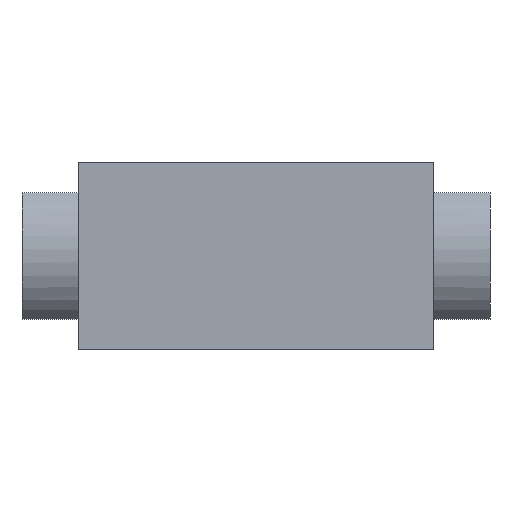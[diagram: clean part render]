
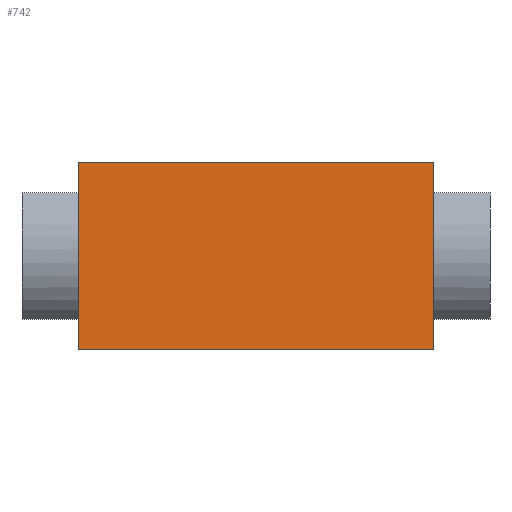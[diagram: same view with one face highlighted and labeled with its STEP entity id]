
A CAD part, front view. The second image highlights one B-rep face of the part: STEP entity #742.
In plain terms, the highlighted planar face has unit normal (0, -1, 0).
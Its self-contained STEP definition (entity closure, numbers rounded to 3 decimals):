
#30 = ORIENTED_EDGE ( 'NONE', *, *, #756, .T. ) ;
#67 = DIRECTION ( 'NONE',  ( 1., 0., 0. ) ) ;
#97 = CARTESIAN_POINT ( 'NONE',  ( -19., -22.5, 10. ) ) ;
#111 = DIRECTION ( 'NONE',  ( 0., 0., -1. ) ) ;
#207 = VERTEX_POINT ( 'NONE', #967 ) ;
#266 = DIRECTION ( 'NONE',  ( 0., 0., -1. ) ) ;
#303 = CARTESIAN_POINT ( 'NONE',  ( -19., -22.5, 10. ) ) ;
#398 = CARTESIAN_POINT ( 'NONE',  ( -19., -22.5, -10. ) ) ;
#459 = DIRECTION ( 'NONE',  ( 0., 1., 0. ) ) ;
#519 = CARTESIAN_POINT ( 'NONE',  ( 19., -22.5, 10. ) ) ;
#553 = VECTOR ( 'NONE', #266, 1000. ) ;
#638 = FACE_OUTER_BOUND ( 'NONE', #851, .T. ) ;
#742 = ADVANCED_FACE ( 'NONE', ( #638 ), #1650, .F. ) ;
#756 = EDGE_CURVE ( 'NONE', #207, #1362, #1083, .T. ) ;
#851 = EDGE_LOOP ( 'NONE', ( #1608, #1989, #1483, #30 ) ) ;
#959 = VERTEX_POINT ( 'NONE', #1562 ) ;
#967 = CARTESIAN_POINT ( 'NONE',  ( -19., -22.5, 10. ) ) ;
#1063 = VECTOR ( 'NONE', #111, 1000. ) ;
#1083 = LINE ( 'NONE', #303, #553 ) ;
#1105 = EDGE_CURVE ( 'NONE', #1362, #959, #1172, .T. ) ;
#1172 = LINE ( 'NONE', #398, #2148 ) ;
#1285 = CARTESIAN_POINT ( 'NONE',  ( -19., -22.5, 10. ) ) ;
#1360 = CARTESIAN_POINT ( 'NONE',  ( -19., -22.5, -10. ) ) ;
#1362 = VERTEX_POINT ( 'NONE', #1360 ) ;
#1483 = ORIENTED_EDGE ( 'NONE', *, *, #1789, .F. ) ;
#1562 = CARTESIAN_POINT ( 'NONE',  ( 19., -22.5, -10. ) ) ;
#1608 = ORIENTED_EDGE ( 'NONE', *, *, #1105, .T. ) ;
#1650 = PLANE ( 'NONE',  #1968 ) ;
#1717 = DIRECTION ( 'NONE',  ( 1., 0., 0. ) ) ;
#1789 = EDGE_CURVE ( 'NONE', #207, #2009, #2030, .T. ) ;
#1968 = AXIS2_PLACEMENT_3D ( 'NONE', #1285, #459, #2034 ) ;
#1989 = ORIENTED_EDGE ( 'NONE', *, *, #2393, .F. ) ;
#2009 = VERTEX_POINT ( 'NONE', #2547 ) ;
#2030 = LINE ( 'NONE', #97, #2438 ) ;
#2034 = DIRECTION ( 'NONE',  ( -1., 0., 0. ) ) ;
#2148 = VECTOR ( 'NONE', #67, 1000. ) ;
#2238 = LINE ( 'NONE', #519, #1063 ) ;
#2393 = EDGE_CURVE ( 'NONE', #2009, #959, #2238, .T. ) ;
#2438 = VECTOR ( 'NONE', #1717, 1000. ) ;
#2547 = CARTESIAN_POINT ( 'NONE',  ( 19., -22.5, 10. ) ) ;
